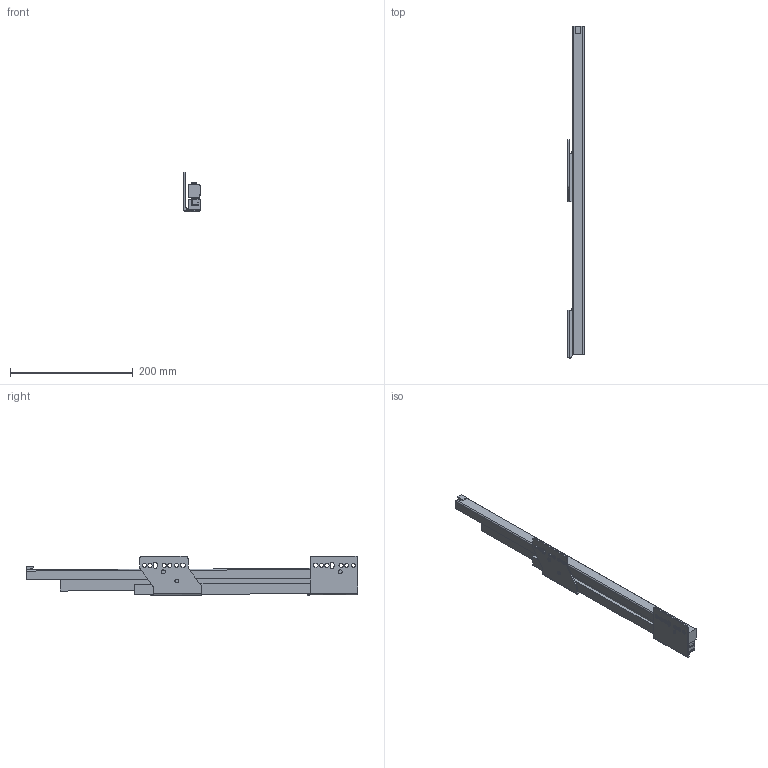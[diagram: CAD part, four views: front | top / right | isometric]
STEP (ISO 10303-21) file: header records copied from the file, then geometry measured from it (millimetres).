
FILE_DESCRIPTION (( 'STEP AP214' ), '1' );
FILE_NAME ('_IMOS_NOVA-Pro_KS_P904_LI_NL550_EB29.step', '2010-07-06T07:17:43', ( 'grass' ), ( '' ), 'SwSTEP 2.0', 'SolidWorks 2009', '' );
FILE_SCHEMA (( 'AUTOMOTIVE_DESIGN' ));
Length unit declared in the file: millimetre
Products named in the file (1): _IMOS_NOVA-Pro_KS_P904_LI_NL550_EB29
Bounding box: 26.75 x 540.34 x 64.46 mm (x, y, z)
Volume: 374251.5 mm3; surface area: 155857 mm2
Topology: 6 solids, 6 shells, 144 faces, 392 edges, 260 vertices
Faces by surface type: plane 89, cylinder 55
Entity records: 4691 total; most frequent: CARTESIAN_POINT 848, ORIENTED_EDGE 784, DIRECTION 765, EDGE_CURVE 392, VECTOR 275, LINE 275, VERTEX_POINT 260, AXIS2_PLACEMENT_3D 245
